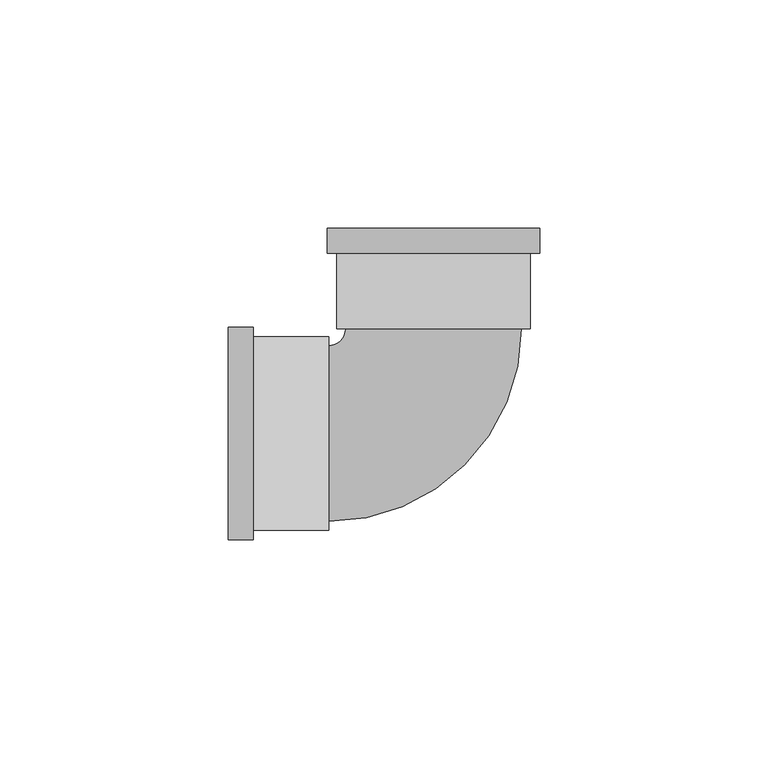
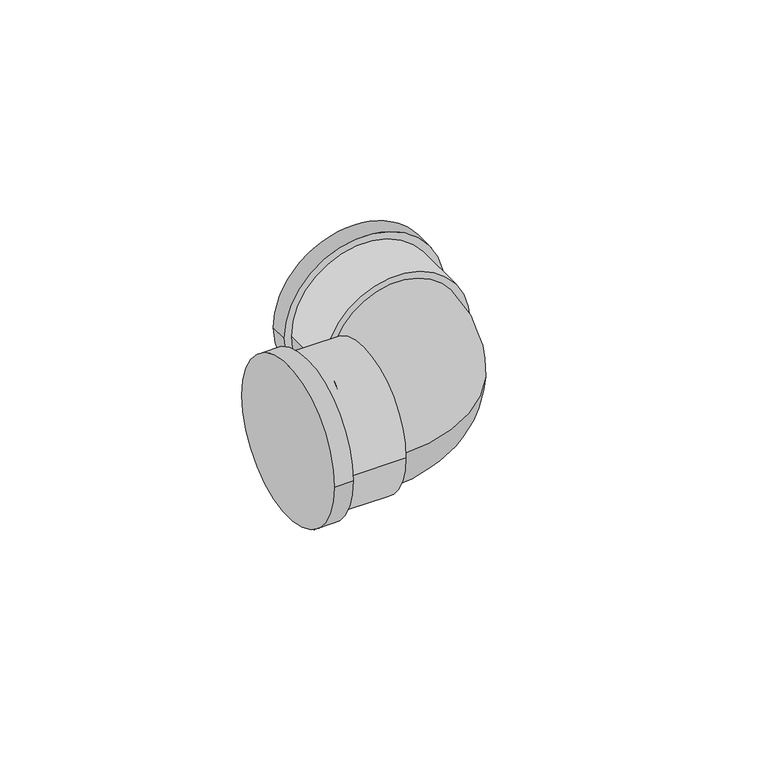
"""IFC4 building model written with IfcOpenShell, lengths in millimetres: pipe fitting geometry, Cotovelo - PVC - CW : Padrão."""

from ifc_helpers import new_model, si_unit, point, frame, origin, place, context, project, spatial, circle_curve, ellipse_curve, trimmed, source, transform, mapped, element, save
from ifc_brep_helpers import plane_surface, cylinder_surface, revolved_surface, advanced_brep


def pipe_fitting_103655aa(model_context):
    return source(origin(), model_context, "Body", "AdvancedBrep", [
        advanced_brep(
        [(-45.0006524, -23.2925, 0.0), (-45.0006524, 23.2925, 0.0), (-39.5006524, -23.2925, 0.0), (-39.5006524, 23.2925, 0.0), (-39.5006524, -21.175, 0.0), (-39.5006524, 21.175, 0.0), (-23.0006524, 21.175, 0.0), (-23.0006524, -21.175, 0.0), (-23.0006524, -19.25, 0.0), (-23.0006524, 19.25, 0.0), (-19.2506524, 23.0001064, 0.0), (19.2493475, 23.0011985, 0.0), (21.1743475, 23.0012531, 0.0), (-21.1756524, 23.0000518, 0.0), (-23.2937765, 44.9999917, 0.0), (23.2912235, 45.0013132, 0.0), (21.1738795, 39.5012531, 0.0), (-21.1761205, 39.5000518, 0.0), (-23.2936205, 39.4999917, 0.0), (23.2913795, 39.5013132, 0.0)],
        [
            (0, 1, circle_curve(frame((-45.0006524, 0.0, 0.0), z_axis=(-1.0, 0.0, 0.0), x_axis=(0.0, 1.0, 0.0)), 23.2925)),
            (1, 0, circle_curve(frame((-45.0006524, 0.0, 0.0), z_axis=(-1.0, 0.0, 0.0), x_axis=(0.0, 1.0, 0.0)), 23.2925)),
            (2, 3, circle_curve(frame((-39.5006524, 0.0, 0.0), z_axis=(1.0, 0.0, 0.0), x_axis=(0.0, 1.0, 0.0)), 23.2925)),
            (3, 2, circle_curve(frame((-39.5006524, 0.0, 0.0), z_axis=(1.0, 0.0, 0.0), x_axis=(0.0, 1.0, 0.0)), 23.2925)),
            (4, 5, circle_curve(frame((-39.5006524, 0.0, 0.0), z_axis=(-1.0, 0.0, 0.0), x_axis=(0.0, -1.0, 0.0)), 21.175)),
            (5, 4, circle_curve(frame((-39.5006524, 0.0, 0.0), z_axis=(-1.0, 0.0, 0.0), x_axis=(0.0, -1.0, 0.0)), 21.175)),
            (0, 2),
            (3, 1),
            (6, 7, circle_curve(frame((-23.0006524, 0.0, 0.0), z_axis=(1.0, 0.0, 0.0), x_axis=(0.0, -1.0, 0.0)), 21.175)),
            (7, 6, circle_curve(frame((-23.0006524, 0.0, 0.0), z_axis=(1.0, 0.0, 0.0), x_axis=(0.0, -1.0, 0.0)), 21.175)),
            (8, 9, circle_curve(frame((-23.0006524, 0.0, 0.0), z_axis=(-1.0, 0.0, 0.0), x_axis=(0.0, 1.0, 0.0)), 19.25)),
            (9, 8, circle_curve(frame((-23.0006524, 0.0, 0.0), z_axis=(-1.0, 0.0, 0.0), x_axis=(0.0, 1.0, 0.0)), 19.25)),
            (6, 5),
            (4, 7),
            (10, 9, circle_curve(frame((-23.0006524, 23.0, 0.0), z_axis=(0.0, 0.0, -1.0), x_axis=(0.0, -1.0, 0.0)), 3.75)),
            (8, 11, circle_curve(frame((-23.0006524, 23.0, 0.0), z_axis=(0.0, 0.0, 1.0), x_axis=(0.0, -1.0, 0.0)), 42.25)),
            (11, 10, circle_curve(frame((-0.0006525, 23.0006524, 0.0), z_axis=(2.8366844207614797e-05, -0.9999999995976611, 0.0), x_axis=(-0.9999999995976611, -2.8366844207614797e-05, 0.0)), 19.25)),
            (10, 11, circle_curve(frame((-0.0006525, 23.0006524, 0.0), z_axis=(2.8366844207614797e-05, -0.9999999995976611, 0.0), x_axis=(-0.9999999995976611, -2.8366844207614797e-05, 0.0)), 19.25)),
            (12, 13, circle_curve(frame((-0.0006525, 23.0006524, 0.0), z_axis=(2.8366844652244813e-05, -0.9999999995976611, 0.0), x_axis=(-0.9999999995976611, -2.8366844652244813e-05, 0.0)), 21.175)),
            (13, 12, circle_curve(frame((-0.0006525, 23.0006524, 0.0), z_axis=(2.8366844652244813e-05, -0.9999999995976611, 0.0), x_axis=(-0.9999999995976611, -2.8366844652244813e-05, 0.0)), 21.175)),
            (14, 15, circle_curve(frame((-0.0012765, 45.0006524, 0.0), z_axis=(-2.8366844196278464e-05, 0.9999999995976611, 0.0), x_axis=(0.9999999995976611, 2.8366844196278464e-05, 0.0)), 23.2925)),
            (15, 14, circle_curve(frame((-0.0012765, 45.0006524, 0.0), z_axis=(-2.8366844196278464e-05, 0.9999999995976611, 0.0), x_axis=(0.9999999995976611, 2.8366844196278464e-05, 0.0)), 23.2925)),
            (12, 16),
            (16, 17, circle_curve(frame((-0.0011205, 39.5006524, 0.0), z_axis=(2.8366844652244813e-05, -0.9999999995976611, 0.0), x_axis=(-0.9999999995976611, -2.8366844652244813e-05, 0.0)), 21.175)),
            (17, 13),
            (17, 16, circle_curve(frame((-0.0011205, 39.5006524, 0.0), z_axis=(2.8366844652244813e-05, -0.9999999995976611, 0.0), x_axis=(-0.9999999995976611, -2.8366844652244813e-05, 0.0)), 21.175)),
            (18, 19, circle_curve(frame((-0.0011205, 39.5006524, 0.0), z_axis=(2.8366844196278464e-05, -0.9999999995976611, 0.0), x_axis=(0.9999999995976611, 2.8366844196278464e-05, 0.0)), 23.2925)),
            (19, 18, circle_curve(frame((-0.0011205, 39.5006524, 0.0), z_axis=(2.8366844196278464e-05, -0.9999999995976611, 0.0), x_axis=(0.9999999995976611, 2.8366844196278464e-05, 0.0)), 23.2925)),
            (14, 18),
            (19, 15),
        ],
        [
            plane_surface(frame((-45.0006524, 0.0, 0.0), z_axis=(-1.0, 0.0, 0.0), x_axis=(0.0, 0.0, 1.0))),
            plane_surface(frame((-39.5006524, 0.0, 0.0), z_axis=(1.0, 0.0, 0.0), x_axis=(0.0, 0.0, 1.0))),
            cylinder_surface(frame((-45.0006524, 0.0, 0.0), z_axis=(-1.0, 0.0, 0.0), x_axis=(0.0, 1.0, 0.0)), 23.2925),
            plane_surface(frame((-23.0006524, 0.0, 0.0), z_axis=(1.0, 0.0, 0.0), x_axis=(0.0, 0.0, 1.0))),
            cylinder_surface(frame((-23.0006524, 0.0, 0.0), z_axis=(1.0, 0.0, 0.0), x_axis=(0.0, -1.0, 0.0)), 21.175),
            revolved_surface(trimmed(ellipse_curve(frame((-23.0006524, 0.0, 0.0), z_axis=(-1.0, 0.0, 0.0), x_axis=(0.0, 1.0, 0.0)), 19.25, 19.25), [point((-23.0006524, -19.25, 0.0))], [point((-23.0006524, 19.25, 0.0))], True, "CARTESIAN"), (-23.0006524, 23.0, 0.0), (0.0, 0.0, 1.0)),
            revolved_surface(trimmed(ellipse_curve(frame((-23.0006524, 0.0, 0.0), z_axis=(-1.0, 0.0, 0.0), x_axis=(0.0, 1.0, 0.0)), 19.25, 19.25), [point((-23.0006524, 19.25, 0.0))], [point((-23.0006524, -19.25, 0.0))], True, "CARTESIAN"), (-23.0006524, 23.0, 0.0), (0.0, 0.0, 1.0)),
            plane_surface(frame((-0.0006525, 23.0006524, 0.0), z_axis=(2.8366844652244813e-05, -0.9999999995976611, 0.0), x_axis=(0.0, 0.0, 1.0))),
            plane_surface(frame((-0.0012765, 45.0006524, 0.0), z_axis=(-2.8366844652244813e-05, 0.9999999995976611, 0.0), x_axis=(0.0, 0.0, 1.0))),
            cylinder_surface(frame((-0.0006525, 23.0006524, 0.0), z_axis=(2.8366844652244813e-05, -0.9999999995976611, 0.0), x_axis=(-0.9999999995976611, -2.8366844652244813e-05, 0.0)), 21.175),
            plane_surface(frame((-0.0011205, 39.5006524, 0.0), z_axis=(2.8366844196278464e-05, -0.9999999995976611, 0.0), x_axis=(0.0, 0.0, 1.0))),
            cylinder_surface(frame((-0.0012765, 45.0006524, 0.0), z_axis=(-2.8366844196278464e-05, 0.9999999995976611, 0.0), x_axis=(0.9999999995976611, 2.8366844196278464e-05, 0.0)), 23.2925),
        ],
        [
            (0, [[1, 2]]),
            (1, [[3, 4], [5, 6]]),
            (2, [[-1, 7, -4, 8]]),
            (2, [[-2, -8, -3, -7]]),
            (3, [[9, 10], [11, 12]]),
            (4, [[-9, 13, -5, 14]]),
            (4, [[-10, -14, -6, -13]]),
            (5, [[15, -11, 16, 17]]),
            (6, [[-15, 18, -16, -12]]),
            (7, [[19, 20], [-17, -18]]),
            (8, [[21, 22]]),
            (9, [[-19, 23, 24, 25]]),
            (9, [[-20, -25, 26, -23]]),
            (10, [[27, 28], [-24, -26]]),
            (11, [[-21, 29, -28, 30]]),
            (11, [[-22, -30, -27, -29]]),
        ],
    ),
    ])


if __name__ == "__main__":
    model = new_model("IFC4")
    model_context = context("Model", 3, world=origin())
    ifc_project = project(units=[si_unit("LENGTHUNIT", "METRE", prefix="MILLI")], contexts=[model_context])
    site = spatial("IfcSite", under=ifc_project)
    building = spatial("IfcBuilding", under=site)
    placement = place(None, origin())
    pipe_fitting_shape = pipe_fitting_103655aa(model_context)
    element("IfcPipeFitting", 1, ObjectType="Cotovelo - PVC - CW : Padrão", at=placement, inside=building, context=model_context, shape_type="MappedRepresentation", body=[
        mapped(pipe_fitting_shape, transform((0.0, 0.0, 0.0), x_axis=(1.0, 0.0, 0.0), y_axis=(0.0, 1.0, 0.0), z_axis=(0.0, 0.0, 1.0))),
    ])
    save(model, "model.ifc")
